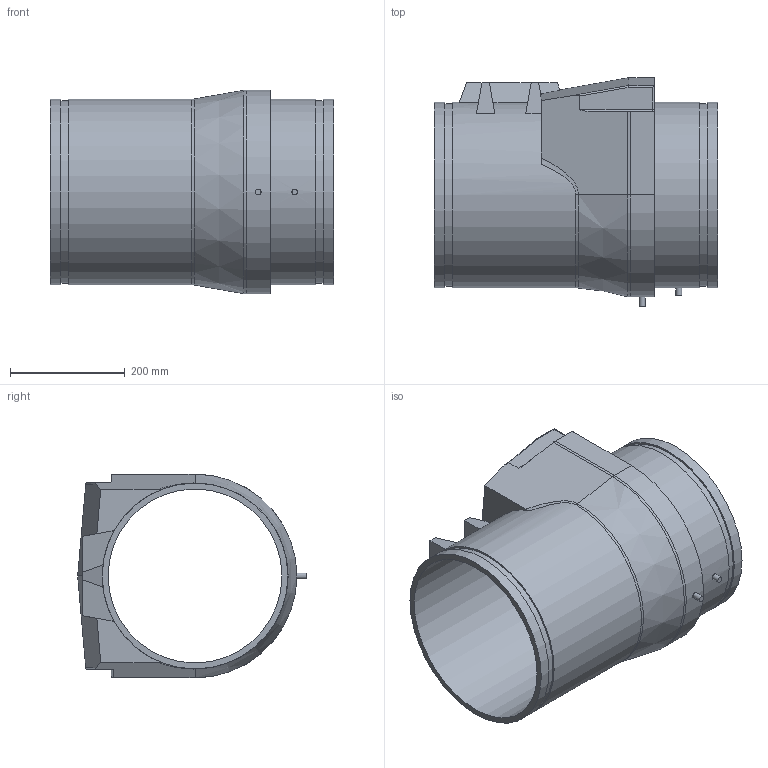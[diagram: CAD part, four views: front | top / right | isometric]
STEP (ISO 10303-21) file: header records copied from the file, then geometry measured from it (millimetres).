
FILE_DESCRIPTION(/* description */ ('VIC FIRELOCK CHECK VALVE SERIES 717','CAx-IF Rec.Pracs.---Representation and Presentation of Product Manufacturing Information (PMI)---4.0---2014-10-13'),/* implementation_level */ '2;1');
FILE_NAME(/* name */ 'C:\Users\Vjadhav\AppData\Roaming\Autodesk\ApplicationPlugins\Back Up\Victaulic_FP-FireLock_Valve Check_Series 717 (OGS)\Victaulic_FP-FireLock_Valve Check_12 (300).stp',/* time_stamp */ '2020-07-17T15:00:49+06:00',/* author */ ('kkamble'),/* organization */ ('Victaulic'),/* preprocessor_version */ 'ST-DEVELOPER v17.2',/* originating_system */ 'Autodesk Inventor 2019',/* authorisation */ '');
FILE_SCHEMA (('AP242_MANAGED_MODEL_BASED_3D_ENGINEERING_MIM_LF { 1 0 10303 442 1 1 4 }'));
Length unit declared in the file: inch
Products named in the file (2): 717-12.0; 717 - 12.0
Assembly tree (1 placements, depth 2):
  717-12.0
    717 - 12.0
Bounding box: 495.3 x 398.78 x 355.6 mm (x, y, z)
Volume: 10204203.1 mm3; surface area: 1121886.9 mm2
Topology: 2 solids, 2 shells, 76 faces, 201 edges, 134 vertices
Faces by surface type: plane 46, cylinder 23, torus 4, bspline 2, cone 1
Full cylindrical faces by diameter (mm): 10.16 x2, 303.225 x1, 318.287 x2, 323.85 x4
Entity records: 2634 total; most frequent: CARTESIAN_POINT 515, DIRECTION 431, ORIENTED_EDGE 404, EDGE_CURVE 202, AXIS2_PLACEMENT_3D 156, VERTEX_POINT 136, LINE 119, VECTOR 119
